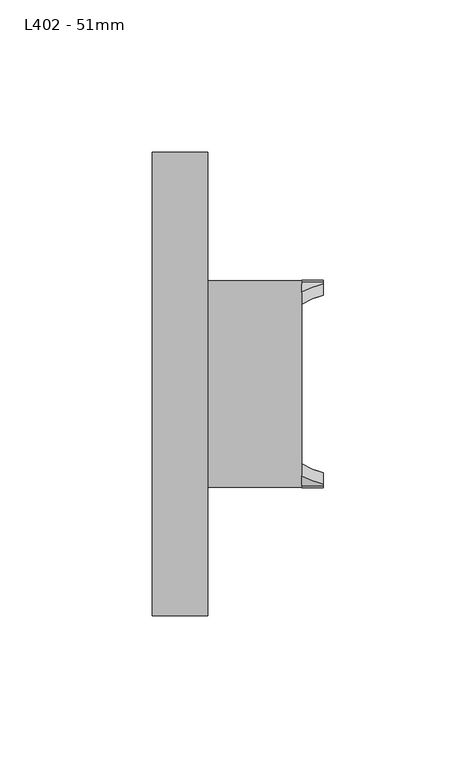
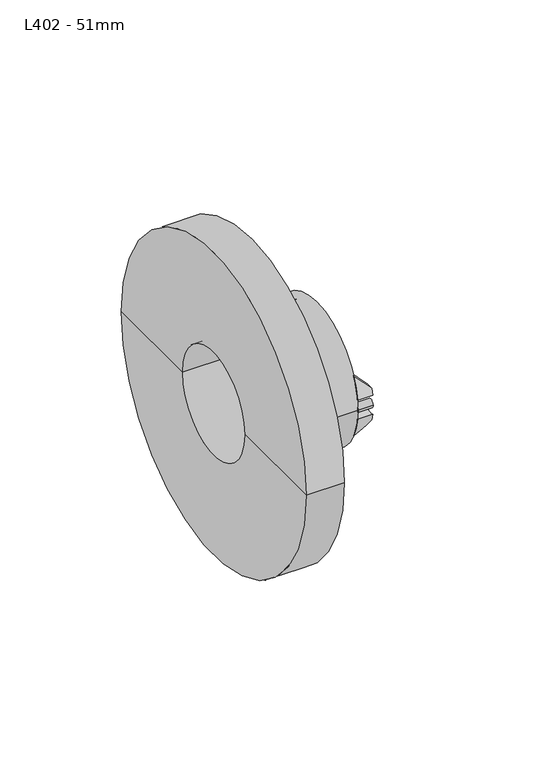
"""IFC4 building model written with IfcOpenShell, lengths in millimetres: pipe fitting geometry, Durapipe_PipeFitting_VulcatheneEnfusion_Flange_L40 : L402 - 51mm."""

from ifc_helpers import new_model, si_unit, point, frame, frame_2d, origin, place, context, project, spatial, polyline, circle_curve, ellipse_curve, trimmed, segment, composite_curve, outline, extrude, source, transform, mapped, element, save
from ifc_brep_helpers import plane_surface, cylinder_surface, revolved_surface, advanced_brep


def l402_51mm_f2329d77(model_context):
    return source(origin(), model_context, "Body", "SolidModel", [
        advanced_brep(
        [(31.7, -29.9105304, -4.5191448), (31.7, -33.5105304, -4.7819296), (31.7, -32.9056059, -7.94), (31.7, -29.1893628, -7.94), (24.6, -30.3450573, -15.0), (24.6, -33.5105304, -4.7819296), (24.6, -29.9105304, -4.5191448), (24.6, -26.2690407, -15.0)],
        [
            (0, 1, circle_curve(frame((31.7, -32.05, 0.0), z_axis=(-1.0, 0.0, 0.0), x_axis=(0.0, 1.0, 0.0)), 5.0)),
            (1, 2, circle_curve(frame((31.7, 0.0, 0.0), z_axis=(1.0, 0.0, 0.0), x_axis=(0.0, 1.0, 0.0)), 33.85)),
            (2, 3),
            (3, 0, circle_curve(frame((31.7, 0.0, 0.0), z_axis=(-1.0, 0.0, 0.0), x_axis=(0.0, 1.0, 0.0)), 30.25)),
            (4, 5, circle_curve(frame((24.6, 0.0, 0.0), z_axis=(-1.0, 0.0, 0.0), x_axis=(0.0, 1.0, 0.0)), 33.85)),
            (5, 6, circle_curve(frame((24.6, -32.05, 0.0), z_axis=(1.0, 0.0, 0.0), x_axis=(0.0, 1.0, 0.0)), 5.0)),
            (6, 7, circle_curve(frame((24.6, 0.0, 0.0), z_axis=(1.0, 0.0, 0.0), x_axis=(0.0, 1.0, 0.0)), 30.25)),
            (7, 4),
            (6, 0),
            (3, 7, ellipse_curve(frame((39.6849858, 0.0, 0.0), z_axis=(0.7051064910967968, 0.0, -0.7091014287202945), x_axis=(-0.7091014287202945, 0.0, -0.7051064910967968)), 42.9013211, 30.25)),
            (4, 2, ellipse_curve(frame((39.6849858, 0.0, 0.0), z_axis=(-0.7051064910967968, 0.0, 0.7091014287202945), x_axis=(0.7091014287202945, 0.0, 0.7051064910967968)), 48.0069329, 33.85)),
            (1, 5),
        ],
        [
            plane_surface(frame((31.7, -30.3450573, -15.0), z_axis=(1.0, 0.0, 0.0), x_axis=(0.0, 1.0, 0.0))),
            plane_surface(frame((24.6, -30.3450573, -15.0), z_axis=(-1.0, 0.0, 0.0), x_axis=(0.0, -1.0, 0.0))),
            revolved_surface(polyline([(9.263597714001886, 30.25, 0.0), (70.10637388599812, 30.25, 0.0)]), (24.6, 0.0, 0.0), (-1.0, 0.0, 0.0)),
            cylinder_surface(frame((24.6, 0.0, 0.0), z_axis=(1.0, 0.0, 0.0), x_axis=(0.0, 1.0, 0.0)), 33.85),
            revolved_surface(polyline([(31.7, -27.049999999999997, 0.0), (24.6, -27.049999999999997, 0.0)]), (24.6, -32.05, 0.0), (1.0, 0.0, 0.0)),
            plane_surface(frame((24.6, 33.85, -15.0), z_axis=(0.7051064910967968, 0.0, -0.7091014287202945), x_axis=(0.0, -1.0, 0.0))),
        ],
        [
            (0, [[1, 2, 3, 4]]),
            (1, [[5, 6, 7, 8]]),
            (2, [[-7, 9, -4, 10]]),
            (3, [[-5, 11, -2, 12]]),
            (4, [[-1, -9, -6, -12]]),
            (5, [[-3, -11, -8, -10]]),
        ],
    ),
        advanced_brep(
        [(31.7, -33.5105304, 4.7819296), (31.7, -29.9105304, 4.5191448), (31.7, -29.1893628, 7.94), (31.7, -32.9056059, 7.94), (24.6, -33.5105304, 4.7819296), (24.6, -30.3450573, 15.0), (24.6, -26.2690407, 15.0), (24.6, -29.9105304, 4.5191448)],
        [
            (0, 1, circle_curve(frame((31.7, -32.05, 0.0), z_axis=(-1.0, 0.0, 0.0), x_axis=(0.0, 1.0, 0.0)), 5.0)),
            (1, 2, circle_curve(frame((31.7, 0.0, 0.0), z_axis=(-1.0, 0.0, 0.0), x_axis=(0.0, 1.0, 0.0)), 30.25)),
            (2, 3),
            (3, 0, circle_curve(frame((31.7, 0.0, 0.0), z_axis=(1.0, 0.0, 0.0), x_axis=(0.0, 1.0, 0.0)), 33.85)),
            (4, 5, circle_curve(frame((24.6, 0.0, 0.0), z_axis=(-1.0, 0.0, 0.0), x_axis=(0.0, 1.0, 0.0)), 33.85)),
            (5, 6),
            (6, 7, circle_curve(frame((24.6, 0.0, 0.0), z_axis=(1.0, 0.0, 0.0), x_axis=(0.0, 1.0, 0.0)), 30.25)),
            (7, 4, circle_curve(frame((24.6, -32.05, 0.0), z_axis=(1.0, 0.0, 0.0), x_axis=(0.0, 1.0, 0.0)), 5.0)),
            (6, 2, ellipse_curve(frame((39.6849858, 0.0, 0.0), z_axis=(0.7051064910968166, 0.0, 0.7091014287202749), x_axis=(-0.7091014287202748, 0.0, 0.7051064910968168)), 42.9013211, 30.25)),
            (1, 7),
            (4, 0),
            (3, 5, ellipse_curve(frame((39.6849858, 0.0, 0.0), z_axis=(-0.7051064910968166, 0.0, -0.7091014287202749), x_axis=(0.7091014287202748, 0.0, -0.7051064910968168)), 48.0069329, 33.85)),
        ],
        [
            plane_surface(frame((31.7, -30.3450573, -15.0), z_axis=(1.0, 0.0, 0.0), x_axis=(0.0, 1.0, 0.0))),
            plane_surface(frame((24.6, -30.3450573, -15.0), z_axis=(-1.0, 0.0, 0.0), x_axis=(0.0, -1.0, 0.0))),
            revolved_surface(polyline([(9.263597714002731, 30.25, 0.0), (70.10637388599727, 30.25, 0.0)]), (24.6, 0.0, 0.0), (-1.0, 0.0, 0.0)),
            cylinder_surface(frame((24.6, 0.0, 0.0), z_axis=(1.0, 0.0, 0.0), x_axis=(0.0, 1.0, 0.0)), 33.85),
            revolved_surface(polyline([(31.7, -27.049999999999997, 0.0), (24.6, -27.049999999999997, 0.0)]), (24.6, -32.05, 0.0), (1.0, 0.0, 0.0)),
            plane_surface(frame((31.7, 33.85, 7.94), z_axis=(0.7051064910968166, 0.0, 0.7091014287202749), x_axis=(0.0, -1.0, 0.0))),
        ],
        [
            (0, [[1, 2, 3, 4]]),
            (1, [[5, 6, 7, 8]]),
            (2, [[-7, 9, -2, 10]]),
            (3, [[-5, 11, -4, 12]]),
            (4, [[-1, -11, -8, -10]]),
            (5, [[-3, -9, -6, -12]]),
        ],
    ),
        advanced_brep(
        [(31.7, 33.5105304, -4.7819296), (31.7, 29.9105304, -4.5191448), (31.7, 29.1893628, -7.94), (31.7, 32.9056059, -7.94), (24.6, 33.5105304, -4.7819296), (24.6, 30.3450573, -15.0), (24.6, 26.2690407, -15.0), (24.6, 29.9105304, -4.5191448)],
        [
            (0, 1, circle_curve(frame((31.7, 32.05, 0.0), z_axis=(-1.0, 0.0, 0.0), x_axis=(0.0, 1.0, 0.0)), 5.0)),
            (1, 2, circle_curve(frame((31.7, 0.0, 0.0), z_axis=(-1.0, 0.0, 0.0), x_axis=(0.0, 1.0, 0.0)), 30.25)),
            (2, 3),
            (3, 0, circle_curve(frame((31.7, 0.0, 0.0), z_axis=(1.0, 0.0, 0.0), x_axis=(0.0, 1.0, 0.0)), 33.85)),
            (4, 5, circle_curve(frame((24.6, 0.0, 0.0), z_axis=(-1.0, 0.0, 0.0), x_axis=(0.0, 1.0, 0.0)), 33.85)),
            (5, 6),
            (6, 7, circle_curve(frame((24.6, 0.0, 0.0), z_axis=(1.0, 0.0, 0.0), x_axis=(0.0, 1.0, 0.0)), 30.25)),
            (7, 4, circle_curve(frame((24.6, 32.05, 0.0), z_axis=(1.0, 0.0, 0.0), x_axis=(0.0, 1.0, 0.0)), 5.0)),
            (6, 2, ellipse_curve(frame((39.6849858, 0.0, 0.0), z_axis=(0.7051064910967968, 0.0, -0.7091014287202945), x_axis=(-0.7091014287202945, 0.0, -0.7051064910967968)), 42.9013211, 30.25)),
            (1, 7),
            (4, 0),
            (3, 5, ellipse_curve(frame((39.6849858, 0.0, 0.0), z_axis=(-0.7051064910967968, 0.0, 0.7091014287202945), x_axis=(0.7091014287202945, 0.0, 0.7051064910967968)), 48.0069329, 33.85)),
        ],
        [
            plane_surface(frame((31.7, -30.3450573, -15.0), z_axis=(1.0, 0.0, 0.0), x_axis=(0.0, 1.0, 0.0))),
            plane_surface(frame((24.6, -30.3450573, -15.0), z_axis=(-1.0, 0.0, 0.0), x_axis=(0.0, -1.0, 0.0))),
            revolved_surface(polyline([(9.263597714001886, 30.25, 0.0), (70.10637388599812, 30.25, 0.0)]), (24.6, 0.0, 0.0), (-1.0, 0.0, 0.0)),
            cylinder_surface(frame((24.6, 0.0, 0.0), z_axis=(1.0, 0.0, 0.0), x_axis=(0.0, 1.0, 0.0)), 33.85),
            revolved_surface(polyline([(31.7, 37.05, 0.0), (24.6, 37.05, 0.0)]), (24.6, 32.05, 0.0), (1.0, 0.0, 0.0)),
            plane_surface(frame((24.6, 33.85, -15.0), z_axis=(0.7051064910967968, 0.0, -0.7091014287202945), x_axis=(0.0, -1.0, 0.0))),
        ],
        [
            (0, [[1, 2, 3, 4]]),
            (1, [[5, 6, 7, 8]]),
            (2, [[-7, 9, -2, 10]]),
            (3, [[-5, 11, -4, 12]]),
            (4, [[-1, -11, -8, -10]]),
            (5, [[-3, -9, -6, -12]]),
        ],
    ),
        advanced_brep(
        [(31.7, 29.9105304, 4.5191448), (31.7, 33.5105304, 4.7819296), (31.7, 32.9056059, 7.94), (31.7, 29.1893628, 7.94), (24.6, 30.3450573, 15.0), (24.6, 33.5105304, 4.7819296), (24.6, 29.9105304, 4.5191448), (24.6, 26.2690407, 15.0)],
        [
            (0, 1, circle_curve(frame((31.7, 32.05, 0.0), z_axis=(-1.0, 0.0, 0.0), x_axis=(0.0, 1.0, 0.0)), 5.0)),
            (1, 2, circle_curve(frame((31.7, 0.0, 0.0), z_axis=(1.0, 0.0, 0.0), x_axis=(0.0, 1.0, 0.0)), 33.85)),
            (2, 3),
            (3, 0, circle_curve(frame((31.7, 0.0, 0.0), z_axis=(-1.0, 0.0, 0.0), x_axis=(0.0, 1.0, 0.0)), 30.25)),
            (4, 5, circle_curve(frame((24.6, 0.0, 0.0), z_axis=(-1.0, 0.0, 0.0), x_axis=(0.0, 1.0, 0.0)), 33.85)),
            (5, 6, circle_curve(frame((24.6, 32.05, 0.0), z_axis=(1.0, 0.0, 0.0), x_axis=(0.0, 1.0, 0.0)), 5.0)),
            (6, 7, circle_curve(frame((24.6, 0.0, 0.0), z_axis=(1.0, 0.0, 0.0), x_axis=(0.0, 1.0, 0.0)), 30.25)),
            (7, 4),
            (6, 0),
            (3, 7, ellipse_curve(frame((39.6849858, 0.0, 0.0), z_axis=(0.7051064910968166, 0.0, 0.7091014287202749), x_axis=(-0.7091014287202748, 0.0, 0.7051064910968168)), 42.9013211, 30.25)),
            (4, 2, ellipse_curve(frame((39.6849858, 0.0, 0.0), z_axis=(-0.7051064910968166, 0.0, -0.7091014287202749), x_axis=(0.7091014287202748, 0.0, -0.7051064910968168)), 48.0069329, 33.85)),
            (1, 5),
        ],
        [
            plane_surface(frame((31.7, -30.3450573, -15.0), z_axis=(1.0, 0.0, 0.0), x_axis=(0.0, 1.0, 0.0))),
            plane_surface(frame((24.6, -30.3450573, -15.0), z_axis=(-1.0, 0.0, 0.0), x_axis=(0.0, -1.0, 0.0))),
            revolved_surface(polyline([(9.263597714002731, 30.25, 0.0), (70.10637388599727, 30.25, 0.0)]), (24.6, 0.0, 0.0), (-1.0, 0.0, 0.0)),
            cylinder_surface(frame((24.6, 0.0, 0.0), z_axis=(1.0, 0.0, 0.0), x_axis=(0.0, 1.0, 0.0)), 33.85),
            revolved_surface(polyline([(31.7, 37.05, 0.0), (24.6, 37.05, 0.0)]), (24.6, 32.05, 0.0), (1.0, 0.0, 0.0)),
            plane_surface(frame((31.7, 33.85, 7.94), z_axis=(0.7051064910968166, 0.0, 0.7091014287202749), x_axis=(0.0, -1.0, 0.0))),
        ],
        [
            (0, [[1, 2, 3, 4]]),
            (1, [[5, 6, 7, 8]]),
            (2, [[-7, 9, -4, 10]]),
            (3, [[-5, 11, -2, 12]]),
            (4, [[-1, -9, -6, -12]]),
            (5, [[-3, -11, -8, -10]]),
        ],
    ),
        extrude(outline(composite_curve([segment(trimmed(circle_curve(frame_2d((-32.05, 0.0)), 2.0), [point((-34.05, 0.0))], [point((-30.05, 0.0))], False, "CARTESIAN"), True, "CONTINUOUS"), segment(trimmed(circle_curve(frame_2d((-32.05, 0.0)), 2.0), [point((-30.05, 0.0))], [point((-34.05, 0.0))], False, "CARTESIAN"), True, "CONTINUOUS")], self_intersect=False)), frame((24.6, 0.0, 0.0), z_axis=(1.0, 0.0, 0.0), x_axis=(0.0, 1.0, 0.0)), (0.0, 0.0, 1.0), 7.1),
        extrude(outline(composite_curve([segment(trimmed(circle_curve(frame_2d((32.05, 0.0)), 2.0), [point((30.05, 0.0))], [point((34.05, 0.0))], False, "CARTESIAN"), True, "CONTINUOUS"), segment(trimmed(circle_curve(frame_2d((32.05, 0.0)), 2.0), [point((34.05, 0.0))], [point((30.05, 0.0))], False, "CARTESIAN"), True, "CONTINUOUS")], self_intersect=False)), frame((24.6, 0.0, 0.0), z_axis=(1.0, 0.0, 0.0), x_axis=(0.0, 1.0, 0.0)), (0.0, 0.0, 1.0), 7.1),
        advanced_brep(
        [(-24.6, -26.0, 0.0), (-24.6, 26.0, 0.0), (-24.6, 76.2, 0.0), (-24.6, -76.2, 0.0), (-0.8, -26.0, 0.0), (-0.8, 26.0, 0.0), (-0.8, -30.1, 0.0), (-0.8, 30.1, 0.0), (24.6, -30.1, 0.0), (24.6, 30.1, 0.0), (24.6, -34.0, 0.0), (24.6, 34.0, 0.0), (-6.3, -34.0, 0.0), (-6.3, 34.0, 0.0), (-6.3, -76.2, 0.0), (-6.3, 76.2, 0.0)],
        [
            (0, 1, circle_curve(frame((-24.6, 0.0, 0.0), z_axis=(1.0, 0.0, 0.0), x_axis=(0.0, 1.0, 0.0)), 26.0)),
            (1, 2),
            (2, 3, circle_curve(frame((-24.6, 0.0, 0.0), z_axis=(-1.0, 0.0, 0.0), x_axis=(0.0, 1.0, 0.0)), 76.2)),
            (3, 0),
            (1, 0, circle_curve(frame((-24.6, 0.0, 0.0), z_axis=(1.0, 0.0, 0.0), x_axis=(0.0, 1.0, 0.0)), 26.0)),
            (3, 2, circle_curve(frame((-24.6, 0.0, 0.0), z_axis=(-1.0, 0.0, 0.0), x_axis=(0.0, 1.0, 0.0)), 76.2)),
            (0, 4),
            (4, 5, circle_curve(frame((-0.8, 0.0, 0.0), z_axis=(1.0, 0.0, 0.0), x_axis=(0.0, 1.0, 0.0)), 26.0)),
            (5, 1),
            (5, 4, circle_curve(frame((-0.8, 0.0, 0.0), z_axis=(1.0, 0.0, 0.0), x_axis=(0.0, 1.0, 0.0)), 26.0)),
            (4, 6),
            (6, 7, circle_curve(frame((-0.8, 0.0, 0.0), z_axis=(1.0, 0.0, 0.0), x_axis=(0.0, 1.0, 0.0)), 30.1)),
            (7, 5),
            (7, 6, circle_curve(frame((-0.8, 0.0, 0.0), z_axis=(1.0, 0.0, 0.0), x_axis=(0.0, 1.0, 0.0)), 30.1)),
            (6, 8),
            (8, 9, circle_curve(frame((24.6, 0.0, 0.0), z_axis=(1.0, 0.0, 0.0), x_axis=(0.0, 1.0, 0.0)), 30.1)),
            (9, 7),
            (9, 8, circle_curve(frame((24.6, 0.0, 0.0), z_axis=(1.0, 0.0, 0.0), x_axis=(0.0, 1.0, 0.0)), 30.1)),
            (8, 10),
            (10, 11, circle_curve(frame((24.6, 0.0, 0.0), z_axis=(1.0, 0.0, 0.0), x_axis=(0.0, 1.0, 0.0)), 34.0)),
            (11, 9),
            (11, 10, circle_curve(frame((24.6, 0.0, 0.0), z_axis=(1.0, 0.0, 0.0), x_axis=(0.0, 1.0, 0.0)), 34.0)),
            (10, 12),
            (12, 13, circle_curve(frame((-6.3, 0.0, 0.0), z_axis=(1.0, 0.0, 0.0), x_axis=(0.0, 1.0, 0.0)), 34.0)),
            (13, 11),
            (13, 12, circle_curve(frame((-6.3, 0.0, 0.0), z_axis=(1.0, 0.0, 0.0), x_axis=(0.0, 1.0, 0.0)), 34.0)),
            (12, 14),
            (14, 15, circle_curve(frame((-6.3, 0.0, 0.0), z_axis=(1.0, 0.0, 0.0), x_axis=(0.0, 1.0, 0.0)), 76.2)),
            (15, 13),
            (15, 14, circle_curve(frame((-6.3, 0.0, 0.0), z_axis=(1.0, 0.0, 0.0), x_axis=(0.0, 1.0, 0.0)), 76.2)),
            (2, 15),
            (14, 3),
        ],
        [
            plane_surface(frame((-24.6, 0.0, 0.0), z_axis=(-1.0, 0.0, 0.0), x_axis=(0.0, 1.0, 0.0))),
            revolved_surface(polyline([(-24.59999999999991, 26.0, 0.0), (-0.7999999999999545, 26.0, 0.0)]), (1567.0772424, 0.0, 0.0), (-1.0, 0.0, 0.0)),
            plane_surface(frame((-0.8, 0.0, 0.0), z_axis=(1.0, 0.0, 0.0), x_axis=(0.0, 1.0, 0.0))),
            revolved_surface(polyline([(-0.7999999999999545, 30.1, 0.0), (24.59999999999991, 30.1, 0.0)]), (1567.0772424, 0.0, 0.0), (-1.0, 0.0, 0.0)),
            plane_surface(frame((24.6, 0.0, 0.0), z_axis=(1.0, 0.0, 0.0), x_axis=(0.0, 1.0, 0.0))),
            cylinder_surface(frame((1567.0772424, 0.0, 0.0), z_axis=(-1.0, 0.0, 0.0), x_axis=(0.0, 1.0, 0.0)), 34.0),
            plane_surface(frame((-6.3, 0.0, 0.0), z_axis=(1.0, 0.0, 0.0), x_axis=(0.0, 1.0, 0.0))),
            cylinder_surface(frame((1567.0772424, 0.0, 0.0), z_axis=(-1.0, 0.0, 0.0), x_axis=(0.0, 1.0, 0.0)), 76.2),
        ],
        [
            (0, [[1, 2, 3, 4]]),
            (0, [[-2, 5, -4, 6]]),
            (1, [[-1, 7, 8, 9]]),
            (1, [[-5, -9, 10, -7]]),
            (2, [[-8, 11, 12, 13]]),
            (2, [[-10, -13, 14, -11]]),
            (3, [[-12, 15, 16, 17]]),
            (3, [[-14, -17, 18, -15]]),
            (4, [[-16, 19, 20, 21]]),
            (4, [[-18, -21, 22, -19]]),
            (5, [[-20, 23, 24, 25]]),
            (5, [[-22, -25, 26, -23]]),
            (6, [[-24, 27, 28, 29]]),
            (6, [[-26, -29, 30, -27]]),
            (7, [[-3, 31, -28, 32]]),
            (7, [[-6, -32, -30, -31]]),
        ],
    ),
    ])


if __name__ == "__main__":
    model = new_model("IFC4")
    model_context = context("Model", 3, world=origin())
    ifc_project = project(units=[si_unit("LENGTHUNIT", "METRE", prefix="MILLI")], contexts=[model_context])
    site = spatial("IfcSite", under=ifc_project)
    building = spatial("IfcBuilding", under=site)
    placement = place(None, origin())
    l402_51mm_shape = l402_51mm_f2329d77(model_context)
    element("IfcPipeFitting", 1, ObjectType="Durapipe_PipeFitting_VulcatheneEnfusion_Flange_L40 : L402 - 51mm", at=placement, inside=building, context=model_context, shape_type="MappedRepresentation", body=[
        mapped(l402_51mm_shape, transform((0.0, 0.0, 0.0), x_axis=(1.0, 0.0, 0.0), y_axis=(0.0, 1.0, 0.0), z_axis=(0.0, 0.0, 1.0))),
    ])
    save(model, "model.ifc")
